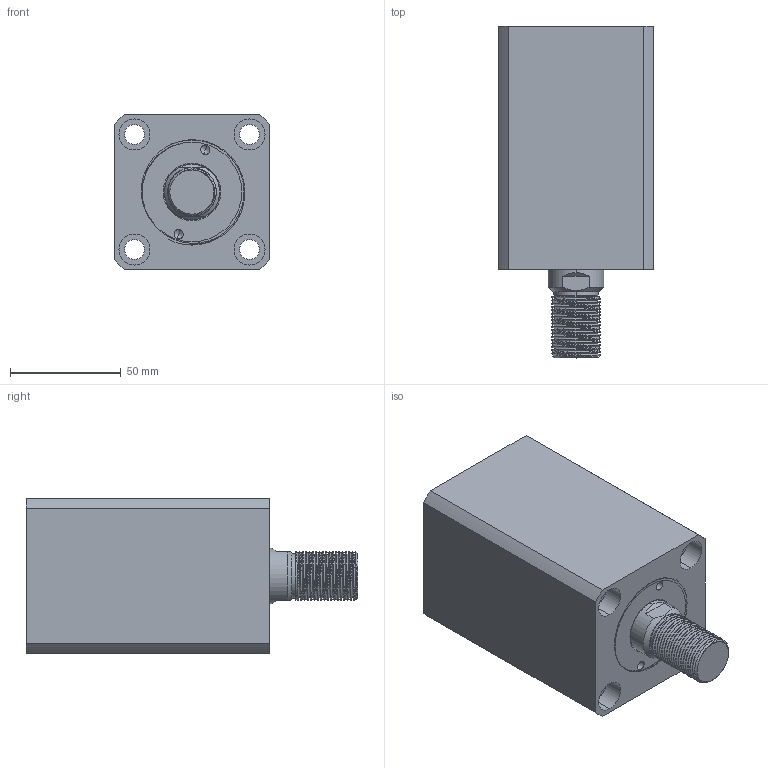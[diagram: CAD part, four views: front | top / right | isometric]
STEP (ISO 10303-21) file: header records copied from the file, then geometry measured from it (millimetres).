
FILE_DESCRIPTION (( 'STEP AP214' ), '1' );
FILE_NAME ('chtb-sdmb40x55w_asm.STEP', '2018-06-07T00:34:41', ( 'Windows' ), ( 'Microsoft' ), 'SwSTEP 2.0', 'SolidWorks 2015', '' );
FILE_SCHEMA (( 'AUTOMOTIVE_DESIGN' ));
Length unit declared in the file: millimetre
Products named in the file (4): CHTB-SD40QG; CHTB-SDMB40X55NBT; CHTB-SD40X55WHSG; chtb-sdmb40x55w_asm
Assembly tree (3 placements, depth 2):
  chtb-sdmb40x55w_asm
    CHTB-SD40X55WHSG
    CHTB-SDMB40X55NBT
    CHTB-SD40QG
Bounding box: 70 x 150 x 70 mm (x, y, z)
Volume: 467101.6 mm3; surface area: 94880 mm2
Topology: 3 solids, 4 shells, 201 faces, 539 edges, 359 vertices
Faces by surface type: cylinder 122, plane 38, bspline 16, torus 14, cone 11
Entity records: 13455 total; most frequent: CARTESIAN_POINT 8586, ORIENTED_EDGE 1066, DIRECTION 904, EDGE_CURVE 533, AXIS2_PLACEMENT_3D 374, VERTEX_POINT 359, EDGE_LOOP 238, ADVANCED_FACE 201
